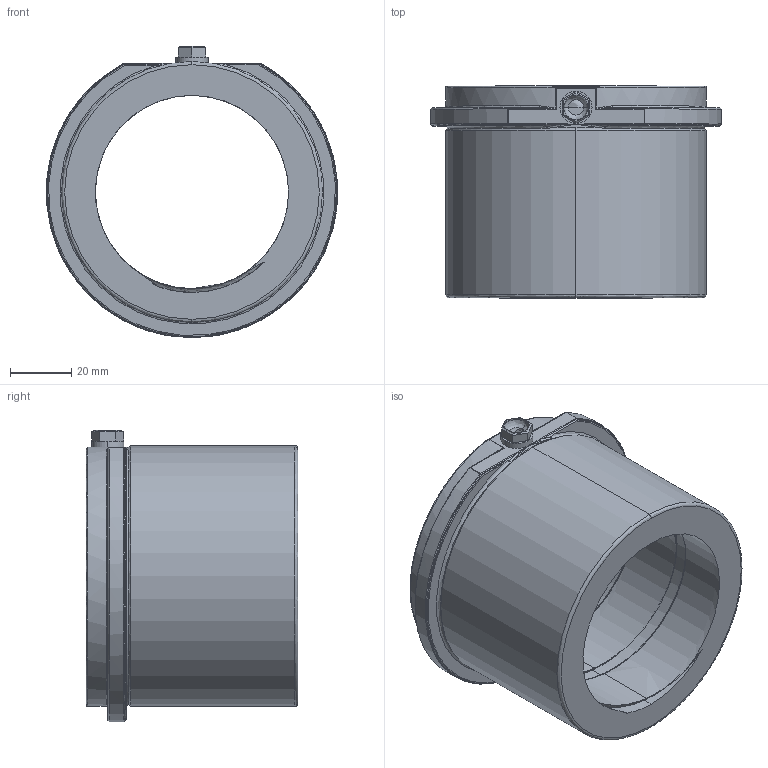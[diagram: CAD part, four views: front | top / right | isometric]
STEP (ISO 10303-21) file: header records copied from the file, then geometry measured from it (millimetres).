
FILE_DESCRIPTION( ( 'STEP AP203' ), '1' );
FILE_NAME( 'D:/Delta 3 D/D24/D24 - 63x56K.step', '2002-12-31T22:45:55', ( ' ' ), ( ' ' ), 'XStep 1.0', ' ', ' ' );
FILE_SCHEMA( ( 'CONFIG_CONTROL_DESIGN' ) );
Length unit declared in the file: metre
Products named in the file (1): 1
Bounding box: 94.96 x 69 x 95 mm (x, y, z)
Volume: 180639.9 mm3; surface area: 41795 mm2
Topology: 1 solids, 1 shells, 123 faces, 293 edges, 168 vertices
Faces by surface type: bspline 67, revolution 56
Entity records: 5916 total; most frequent: CARTESIAN_POINT 3581, ORIENTED_EDGE 574, EDGE_CURVE 287, DIRECTION 283, VERTEX_POINT 168, B_SPLINE_CURVE_WITH_KNOTS 158, EDGE_LOOP 127, ADVANCED_FACE 123
